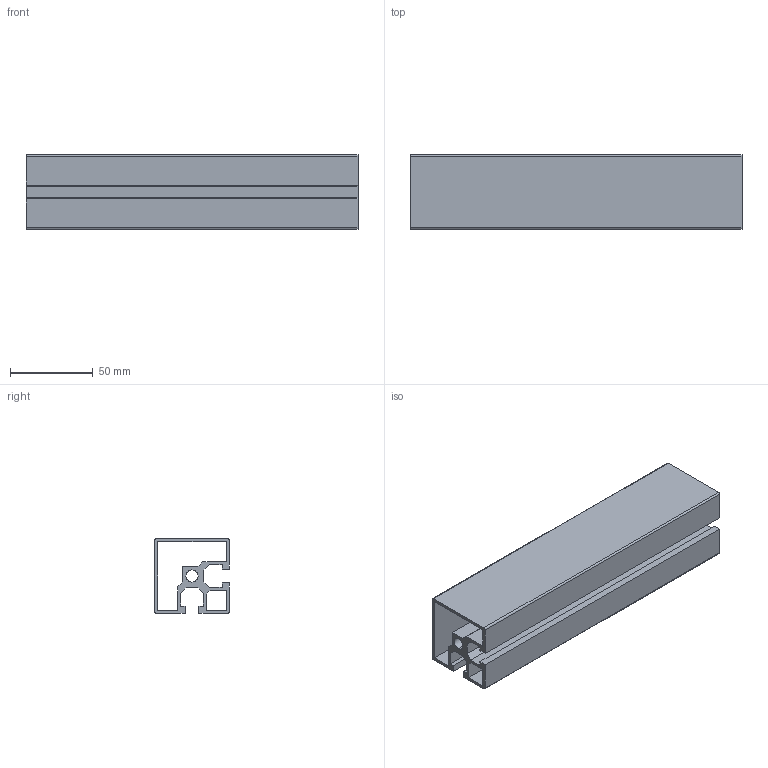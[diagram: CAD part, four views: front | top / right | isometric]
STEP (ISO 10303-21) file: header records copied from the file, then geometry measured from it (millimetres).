
FILE_DESCRIPTION (( 'STEP AP203' ), '1' );
FILE_NAME ('1.01.02.0006-profilo-alluminio-3D-45x45-semichiuso-Milper.STEP', '2020-06-03T13:14:33', ( '' ), ( '' ), 'SwSTEP 2.0', 'SolidWorks 2019', '' );
FILE_SCHEMA (( 'CONFIG_CONTROL_DESIGN' ));
Length unit declared in the file: millimetre
Products named in the file (1): 1.01.02.0006-profilo-alluminio-3D-45x45-semichiuso-Milper
Bounding box: 200 x 45 x 45 mm (x, y, z)
Volume: 111221.3 mm3; surface area: 98300.5 mm2
Topology: 1 solids, 1 shells, 47 faces, 135 edges, 90 vertices
Faces by surface type: plane 41, cylinder 6
Entity records: 1610 total; most frequent: CARTESIAN_POINT 273, ORIENTED_EDGE 270, DIRECTION 243, EDGE_CURVE 135, LINE 123, VECTOR 123, VERTEX_POINT 90, AXIS2_PLACEMENT_3D 60
